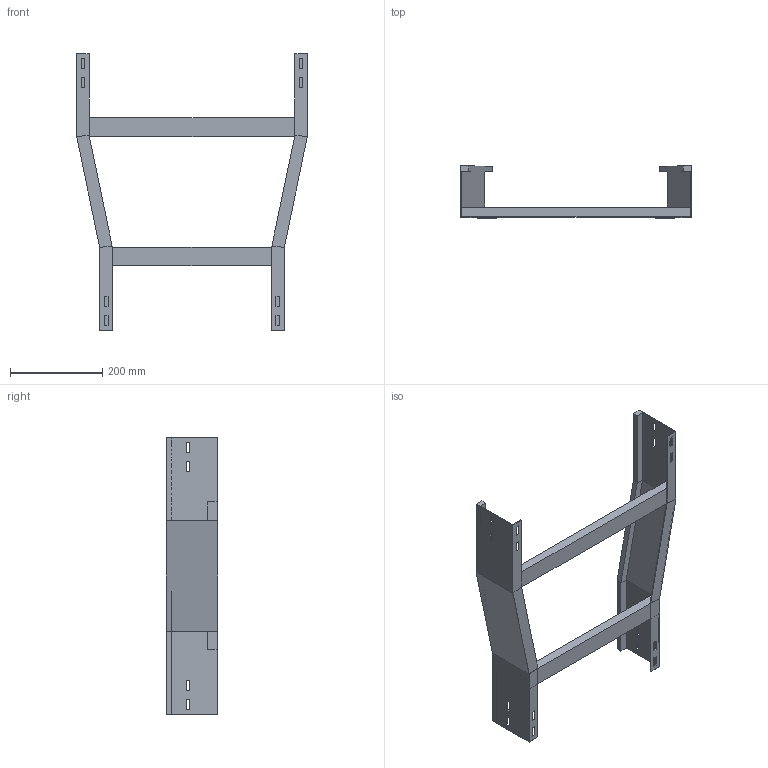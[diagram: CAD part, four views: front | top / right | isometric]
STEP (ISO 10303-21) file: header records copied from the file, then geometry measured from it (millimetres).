
FILE_DESCRIPTION (( 'STEP AP214' ), '1' );
FILE_NAME ('B2X20B4J500XX.step', '2025-09-02T17:14:37', ( '' ), ( '' ), 'SwSTEP 2.0', 'SolidWorks 2023', '' );
FILE_SCHEMA (( 'AUTOMOTIVE_DESIGN' ));
Length unit declared in the file: millimetre
Products named in the file (4): B2X20B4J500XX; SPONDA RID. CENTRALE 500-400_H112.5; TRAVERSINO_500; TRAVERSINO_400
Assembly tree (3 placements, depth 2):
  B2X20B4J500XX
    SPONDA RID. CENTRALE 500-400_H112.5
    TRAVERSINO_400
    TRAVERSINO_500
Bounding box: 500 x 112.5 x 600 mm (x, y, z)
Volume: 1282804.9 mm3; surface area: 486373.2 mm2
Topology: 4 solids, 4 shells, 128 faces, 328 edges, 208 vertices
Faces by surface type: plane 128
Entity records: 3950 total; most frequent: CARTESIAN_POINT 670, ORIENTED_EDGE 656, DIRECTION 596, VECTOR 328, LINE 328, EDGE_CURVE 328, VERTEX_POINT 208, EDGE_LOOP 160
